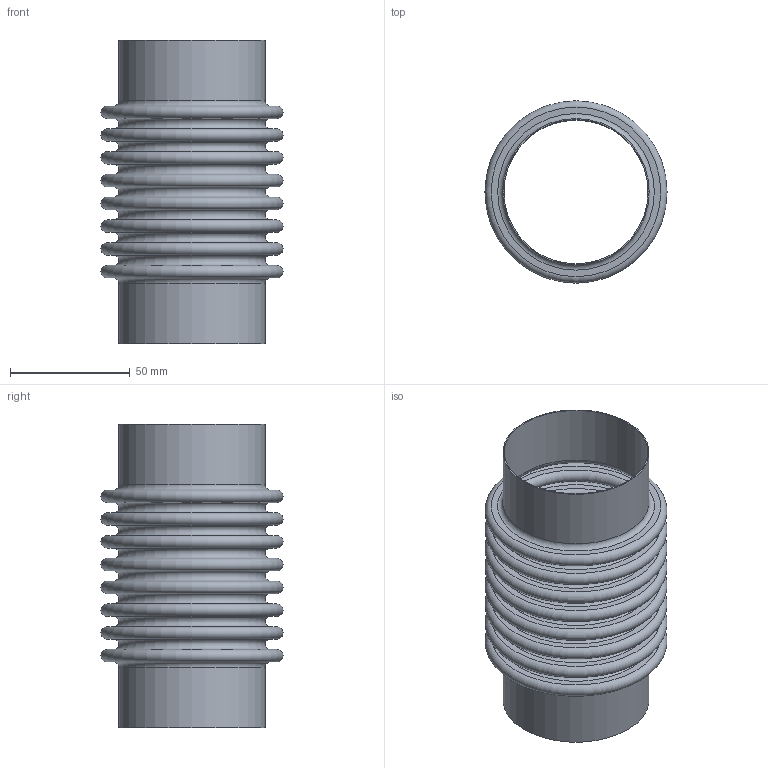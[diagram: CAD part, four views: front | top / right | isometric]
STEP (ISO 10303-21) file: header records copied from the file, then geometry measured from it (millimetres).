
FILE_DESCRIPTION(/* description */ (''),/* implementation_level */ '2;1');
FILE_NAME(/* name */ 'US-2-8-85S.stp',/* time_stamp */ '2026-07-21T11:06:40-05:00',/* author */ ('linda'),/* organization */ (''),/* preprocessor_version */ 'ST-DEVELOPER v20.1',/* originating_system */ 'Autodesk Inventor 2026',/* authorisation */ '');
FILE_SCHEMA (('AUTOMOTIVE_DESIGN { 1 0 10303 214 3 1 1 }'));
Length unit declared in the file: inch
Products named in the file (1): Part3
Bounding box: 76.2 x 76.2 x 127 mm (x, y, z)
Volume: 20434.4 mm3; surface area: 89913.3 mm2
Topology: 3 solids, 3 shells, 76 faces, 114 edges, 77 vertices
Faces by surface type: plane 38, torus 34, cylinder 4
Full cylindrical faces by diameter (mm): 60.325 x2, 61.239 x2
Entity records: 1899 total; most frequent: DIRECTION 378, CARTESIAN_POINT 268, ORIENTED_EDGE 228, AXIS2_PLACEMENT_3D 187, EDGE_LOOP 114, EDGE_CURVE 114, CIRCLE 110, STYLED_ITEM 79
